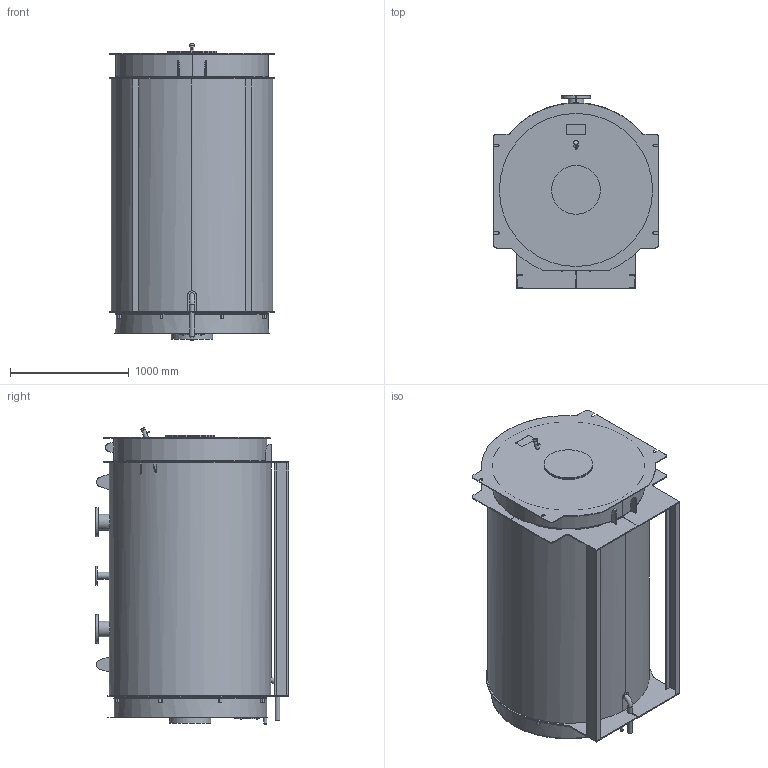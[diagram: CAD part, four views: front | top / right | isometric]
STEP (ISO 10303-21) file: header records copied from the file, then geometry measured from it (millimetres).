
FILE_DESCRIPTION(/* description */ (''),/* implementation_level */ '2;1');
FILE_NAME(/* name */ 'D:\Водогрейные 2х-ходовые котлы Гейзер\3D для проектировщиков\3D Гейзер 1000 кВт для проектировщика.stp',/* time_stamp */ '2024-08-14T23:43:30+07:00',/* author */ ('Александр'),/* organization */ (''),/* preprocessor_version */ 'ST-DEVELOPER v18.1',/* originating_system */ 'Autodesk Inventor 2021',/* authorisation */ '');
FILE_SCHEMA (('AUTOMOTIVE_DESIGN { 1 0 10303 214 3 1 1 }'));
Length unit declared in the file: millimetre
Products named in the file (1): Гейзер 1000 кВт
Bounding box: 1390 x 1630 x 2503.3 mm (x, y, z)
Volume: 3420532918.4 mm3; surface area: 17951188.2 mm2
Topology: 2 solids, 5 shells, 539 faces, 1462 edges, 927 vertices
Faces by surface type: plane 348, cylinder 158, cone 24, torus 8, bspline 1
Full cylindrical faces by diameter (mm): 4 x1, 6 x1, 8.7 x3, 21.939 x1, 25 x1, 26 x1, 33.5 x1, 38 x1, 42 x2, 57 x2, 133 x4, 160 x1, 210 x2, 245 x2, 350 x1, 410 x2, 1262 x2, 1291 x1
Entity records: 17997 total; most frequent: CARTESIAN_POINT 3443, DIRECTION 2970, ORIENTED_EDGE 2926, EDGE_CURVE 1466, AXIS2_PLACEMENT_3D 1026, VERTEX_POINT 927, LINE 918, VECTOR 918
